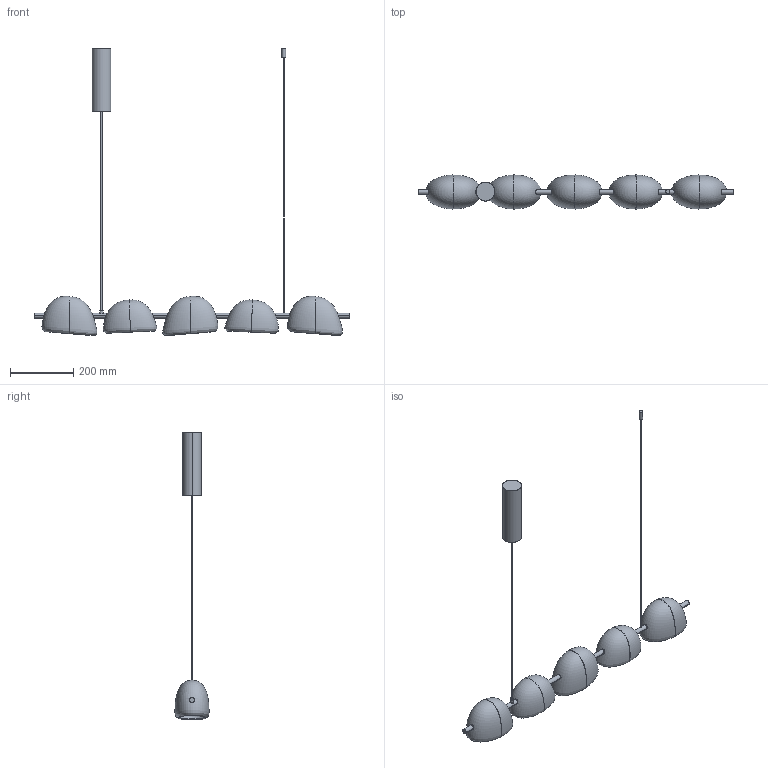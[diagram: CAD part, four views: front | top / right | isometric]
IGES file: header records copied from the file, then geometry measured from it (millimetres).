
Start section: SolidWorks IGES file using analytic representation for surfaces
Global section: file name: C:\Users\Agustin\Desktop\ANGELA\2026\COLECCION ENERO 2026\1354_LADA\C1354\3D\LADA_C1354_5.IGS; native system: SolidWorks 2023; preprocessor: SolidWorks 2023; author: Agustin; date: 260110.103952; units: millimetre
Bounding box: 1000 x 107.91 x 911.04 mm (x, y, z)
Surface area: 576072.7 mm2 (no closed solid volume)
Topology: 0 solids, 0 shells, 74 faces, 1629 edges, 1609 vertices
Faces by surface type: bspline 41, revolution 33
